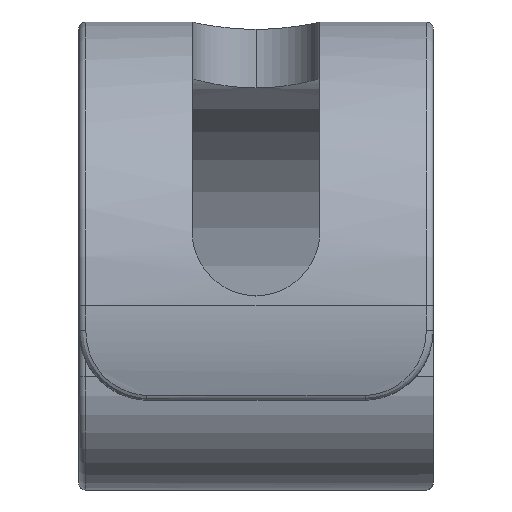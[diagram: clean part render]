
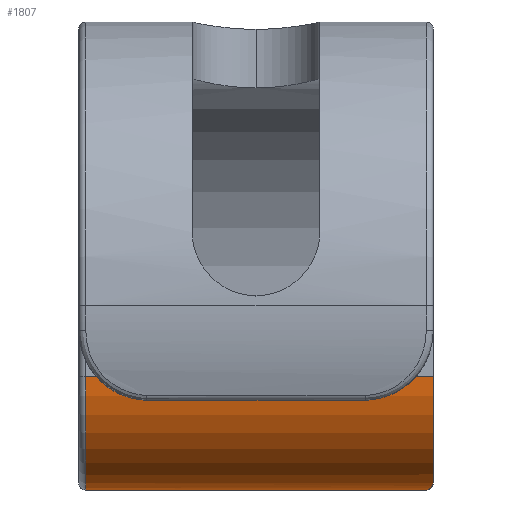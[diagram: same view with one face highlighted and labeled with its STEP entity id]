
A CAD part, left-side view. The second image highlights one B-rep face of the part: STEP entity #1807.
In plain terms, the highlighted cylindrical face has radius 8.067 mm (diameter 16.133 mm), a partial arc.
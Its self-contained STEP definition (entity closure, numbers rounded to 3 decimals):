
#36 = AXIS2_PLACEMENT_3D ( 'NONE', #2221, #2025, #1110 ) ;
#112 = CARTESIAN_POINT ( 'NONE',  ( -11.934, 12.5, 4.066 ) ) ;
#166 = CARTESIAN_POINT ( 'NONE',  ( -14.73, -12.5, -3.5 ) ) ;
#190 = CARTESIAN_POINT ( 'NONE',  ( -12.052, -12.025, -3.999 ) ) ;
#303 = VERTEX_POINT ( 'NONE', #495 ) ;
#338 = CARTESIAN_POINT ( 'NONE',  ( -12.004, -12.006, -4. ) ) ;
#367 = VERTEX_POINT ( 'NONE', #2156 ) ;
#375 = DIRECTION ( 'NONE',  ( 0., -1., 0. ) ) ;
#457 = AXIS2_PLACEMENT_3D ( 'NONE', #112, #694, #2141 ) ;
#488 = EDGE_CURVE ( 'NONE', #303, #597, #2277, .T. ) ;
#495 = CARTESIAN_POINT ( 'NONE',  ( -14.73, -12.5, -3.5 ) ) ;
#498 = CARTESIAN_POINT ( 'NONE',  ( -14.507, -12.5, -3.583 ) ) ;
#511 = CARTESIAN_POINT ( 'NONE',  ( -13.601, -12.381, -3.829 ) ) ;
#547 = CARTESIAN_POINT ( 'NONE',  ( -12.455, -12.128, -3.984 ) ) ;
#556 = LINE ( 'NONE', #2037, #1077 ) ;
#597 = VERTEX_POINT ( 'NONE', #988 ) ;
#694 = DIRECTION ( 'NONE',  ( 0., -1., 0. ) ) ;
#726 = ORIENTED_EDGE ( 'NONE', *, *, #2325, .F. ) ;
#755 = B_SPLINE_CURVE_WITH_KNOTS ( 'NONE', 3,
 ( #898, #2211, #338, #2016, #1824, #1248, #1651, #190, #885, #1838, #1275, #1075, #2198, #547, #1663, #2158, #2394, #511, #1428, #1811, #498, #166 ),
 .UNSPECIFIED., .F., .F.,
 ( 4, 2, 2, 2, 2, 2, 2, 2, 2, 2, 4 ),
 ( 0., 0., 0., 0., 0., 0., 0., 0.001, 0.001, 0.002, 0.003 ),
 .UNSPECIFIED. ) ;
#885 = CARTESIAN_POINT ( 'NONE',  ( -12.067, -12.029, -3.999 ) ) ;
#898 = CARTESIAN_POINT ( 'NONE',  ( -12., -12., -4. ) ) ;
#988 = CARTESIAN_POINT ( 'NONE',  ( -20., -12.5, 4. ) ) ;
#990 = ORIENTED_EDGE ( 'NONE', *, *, #1189, .T. ) ;
#1039 = CARTESIAN_POINT ( 'NONE',  ( -20., 12., 4. ) ) ;
#1055 = FACE_OUTER_BOUND ( 'NONE', #2391, .T. ) ;
#1075 = CARTESIAN_POINT ( 'NONE',  ( -12.225, -12.071, -3.995 ) ) ;
#1077 = VECTOR ( 'NONE', #375, 1000. ) ;
#1110 = DIRECTION ( 'NONE',  ( -1., 0., -0.008 ) ) ;
#1189 = EDGE_CURVE ( 'NONE', #2058, #367, #2186, .T. ) ;
#1248 = CARTESIAN_POINT ( 'NONE',  ( -12.024, -12.016, -4. ) ) ;
#1275 = CARTESIAN_POINT ( 'NONE',  ( -12.138, -12.048, -3.998 ) ) ;
#1280 = CARTESIAN_POINT ( 'NONE',  ( -11.934, 12., 4.066 ) ) ;
#1291 = VECTOR ( 'NONE', #1637, 1000. ) ;
#1428 = CARTESIAN_POINT ( 'NONE',  ( -13.83, -12.421, -3.778 ) ) ;
#1637 = DIRECTION ( 'NONE',  ( 0., -1., 0. ) ) ;
#1651 = CARTESIAN_POINT ( 'NONE',  ( -12.031, -12.018, -4. ) ) ;
#1663 = CARTESIAN_POINT ( 'NONE',  ( -12.57, -12.156, -3.976 ) ) ;
#1777 = CIRCLE ( 'NONE', #1818, 8.067 ) ;
#1798 = CARTESIAN_POINT ( 'NONE',  ( -12., 12.5, -4. ) ) ;
#1807 = ADVANCED_FACE ( 'NONE', ( #1055 ), #2362, .T. ) ;
#1811 = CARTESIAN_POINT ( 'NONE',  ( -14.282, -12.48, -3.654 ) ) ;
#1818 = AXIS2_PLACEMENT_3D ( 'NONE', #1280, #2216, #2067 ) ;
#1824 = CARTESIAN_POINT ( 'NONE',  ( -12.014, -12.011, -4. ) ) ;
#1838 = CARTESIAN_POINT ( 'NONE',  ( -12.11, -12.041, -3.998 ) ) ;
#1980 = EDGE_CURVE ( 'NONE', #2096, #2058, #1777, .T. ) ;
#1990 = ORIENTED_EDGE ( 'NONE', *, *, #488, .T. ) ;
#2016 = CARTESIAN_POINT ( 'NONE',  ( -12.011, -12.01, -4. ) ) ;
#2025 = DIRECTION ( 'NONE',  ( 0., 1., 0. ) ) ;
#2037 = CARTESIAN_POINT ( 'NONE',  ( -20., 12.5, 4. ) ) ;
#2058 = VERTEX_POINT ( 'NONE', #2134 ) ;
#2067 = DIRECTION ( 'NONE',  ( 0., 0., -1. ) ) ;
#2096 = VERTEX_POINT ( 'NONE', #1039 ) ;
#2122 = ORIENTED_EDGE ( 'NONE', *, *, #1980, .T. ) ;
#2134 = CARTESIAN_POINT ( 'NONE',  ( -12., 12., -4. ) ) ;
#2141 = DIRECTION ( 'NONE',  ( -1., 0., -0.008 ) ) ;
#2156 = CARTESIAN_POINT ( 'NONE',  ( -12., -12., -4. ) ) ;
#2158 = CARTESIAN_POINT ( 'NONE',  ( -12.914, -12.238, -3.944 ) ) ;
#2159 = EDGE_CURVE ( 'NONE', #367, #303, #755, .T. ) ;
#2186 = LINE ( 'NONE', #1798, #1291 ) ;
#2198 = CARTESIAN_POINT ( 'NONE',  ( -12.282, -12.085, -3.993 ) ) ;
#2211 = CARTESIAN_POINT ( 'NONE',  ( -12., -12.004, -4. ) ) ;
#2216 = DIRECTION ( 'NONE',  ( 0., -1., 0. ) ) ;
#2221 = CARTESIAN_POINT ( 'NONE',  ( -11.934, -12.5, 4.066 ) ) ;
#2261 = ORIENTED_EDGE ( 'NONE', *, *, #2159, .T. ) ;
#2277 = CIRCLE ( 'NONE', #36, 8.067 ) ;
#2325 = EDGE_CURVE ( 'NONE', #2096, #597, #556, .T. ) ;
#2362 = CYLINDRICAL_SURFACE ( 'NONE', #457, 8.067 ) ;
#2391 = EDGE_LOOP ( 'NONE', ( #990, #2261, #1990, #726, #2122 ) ) ;
#2394 = CARTESIAN_POINT ( 'NONE',  ( -13.143, -12.289, -3.912 ) ) ;
